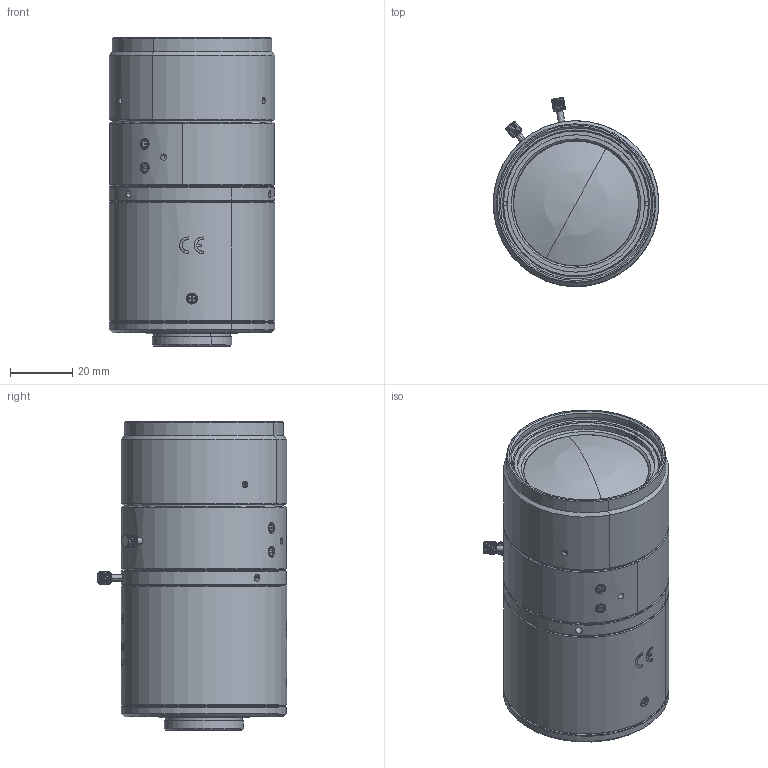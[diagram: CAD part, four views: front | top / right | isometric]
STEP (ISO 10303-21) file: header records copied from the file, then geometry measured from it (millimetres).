
FILE_DESCRIPTION(('CATIA V5 STEP Exchange'),'2;1');
FILE_NAME('\\Cadsys-srv224\13_特機設技-秘\01_機構設計\01_機種別\00.開発・量産機種\CATIA_data\EC002E0000(M692 f=8)\07_to客先\11_TEG\20150113_3DSTEP\EC005E0000-A01-AllAssy_AllCATPart.stp','2015-01-13T12:05:50+00:00',('none'),('none'),'CATIA Version 5 Release 19 SP 8 (IN-10)','CATIA V5 STEP AP203','none');
FILE_SCHEMA(('CONFIG_CONTROL_DESIGN'));
Length unit declared in the file: millimetre
Products named in the file (1): EC005E0000-A01-AllAssy_AllCATPart
Bounding box: 52.99 x 60.57 x 98.72 mm (x, y, z)
Volume: 194523.5 mm3; surface area: 28892.1 mm2
Topology: 1 solids, 10 shells, 2287 faces, 6294 edges, 4128 vertices
Faces by surface type: bspline 1235, extrusion 272, plane 269, cylinder 243, cone 242, torus 20, sphere 6
Entity records: 90297 total; most frequent: CARTESIAN_POINT 45610, ORIENTED_EDGE 12548, EDGE_CURVE 6274, B_SPLINE_CURVE_WITH_KNOTS 4727, VERTEX_POINT 4128, DIRECTION 3233, EDGE_LOOP 2432, ADVANCED_FACE 2287
